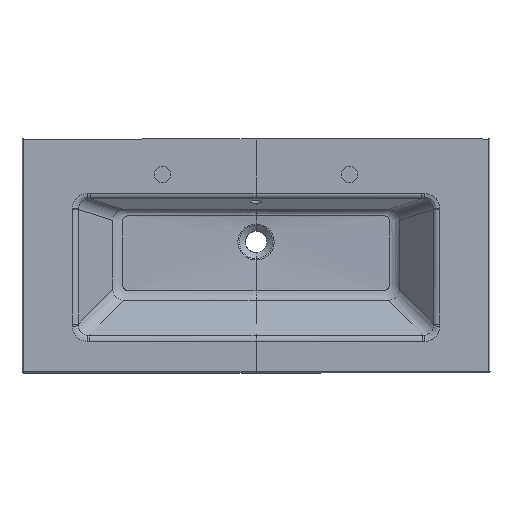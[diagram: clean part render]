
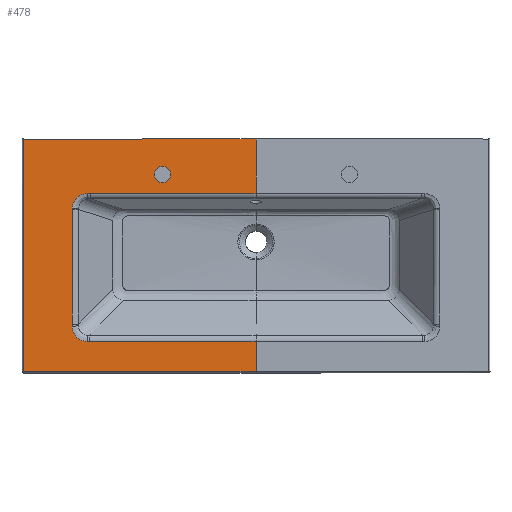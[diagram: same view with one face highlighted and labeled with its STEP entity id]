
A CAD part, top view. The second image highlights one B-rep face of the part: STEP entity #478.
In plain terms, the highlighted planar face has unit normal (0, 0, 1).
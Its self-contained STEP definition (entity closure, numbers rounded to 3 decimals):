
#45=FACE_BOUND('',#793,.T.);
#46=FACE_BOUND('',#794,.T.);
#81=PLANE('',#2559);
#115=LINE('',#6595,#177);
#116=LINE('',#6603,#178);
#117=LINE('',#6609,#179);
#118=LINE('',#6715,#180);
#119=LINE('',#6730,#181);
#120=LINE('',#6736,#182);
#121=LINE('',#6848,#183);
#122=LINE('',#6863,#184);
#131=LINE('',#7167,#193);
#132=LINE('',#7169,#194);
#133=LINE('',#7171,#195);
#134=LINE('',#7173,#196);
#135=LINE('',#7174,#197);
#136=LINE('',#7176,#198);
#177=VECTOR('',#2775,1.);
#178=VECTOR('',#2780,1.);
#179=VECTOR('',#2783,1.);
#180=VECTOR('',#2784,1.);
#181=VECTOR('',#2787,1.);
#182=VECTOR('',#2790,1.);
#183=VECTOR('',#2791,1.);
#184=VECTOR('',#2794,1.);
#193=VECTOR('',#2825,1.);
#194=VECTOR('',#2826,1.);
#195=VECTOR('',#2827,1.);
#196=VECTOR('',#2828,1.);
#197=VECTOR('',#2829,1.);
#198=VECTOR('',#2830,1.);
#349=CIRCLE('',#2549,17.5);
#478=ADVANCED_FACE('',(#45,#46),#81,.T.);
#793=EDGE_LOOP('',(#1504,#1505,#1506,#1507,#1508,#1509,#1510,#1511,#1512,
#1513,#1514,#1515,#1516,#1517,#1518,#1519,#1520,#1521));
#794=EDGE_LOOP('',(#1522));
#858=B_SPLINE_CURVE_WITH_KNOTS('',3,(#3073,#3074,#3075,#3076),
 .UNSPECIFIED.,.F.,.F.,(4,4),(0.,1.),.UNSPECIFIED.);
#973=B_SPLINE_CURVE_WITH_KNOTS('',1,(#6590,#6591),.UNSPECIFIED.,.F.,.F.,
(2,2),(0.,1.),.UNSPECIFIED.);
#974=B_SPLINE_CURVE_WITH_KNOTS('',3,(#6626,#6627,#6628,#6629,#6630,#6631,
#6632,#6633,#6634,#6635),.UNSPECIFIED.,.F.,.F.,(4,2,2,2,4),(0.,0.25,0.5,
0.75,1.),.UNSPECIFIED.);
#976=B_SPLINE_CURVE_WITH_KNOTS('',3,(#6753,#6754,#6755,#6756,#6757,#6758,
#6759,#6760,#6761,#6762),.UNSPECIFIED.,.F.,.F.,(4,2,2,2,4),(0.,0.25,0.5,
0.75,1.),.UNSPECIFIED.);
#1504=ORIENTED_EDGE('',*,*,#2290,.F.);
#1505=ORIENTED_EDGE('',*,*,#2291,.F.);
#1506=ORIENTED_EDGE('',*,*,#2292,.F.);
#1507=ORIENTED_EDGE('',*,*,#2293,.F.);
#1508=ORIENTED_EDGE('',*,*,#2046,.T.);
#1509=ORIENTED_EDGE('',*,*,#2247,.T.);
#1510=ORIENTED_EDGE('',*,*,#2249,.T.);
#1511=ORIENTED_EDGE('',*,*,#2294,.F.);
#1512=ORIENTED_EDGE('',*,*,#2295,.F.);
#1513=ORIENTED_EDGE('',*,*,#2252,.T.);
#1514=ORIENTED_EDGE('',*,*,#2254,.T.);
#1515=ORIENTED_EDGE('',*,*,#2256,.T.);
#1516=ORIENTED_EDGE('',*,*,#2258,.T.);
#1517=ORIENTED_EDGE('',*,*,#2260,.T.);
#1518=ORIENTED_EDGE('',*,*,#2262,.T.);
#1519=ORIENTED_EDGE('',*,*,#2264,.T.);
#1520=ORIENTED_EDGE('',*,*,#2266,.T.);
#1521=ORIENTED_EDGE('',*,*,#2268,.T.);
#1522=ORIENTED_EDGE('',*,*,#2269,.T.);
#1816=VERTEX_POINT('',#3072);
#1817=VERTEX_POINT('',#3077);
#1921=VERTEX_POINT('',#6167);
#1945=VERTEX_POINT('',#6594);
#1946=VERTEX_POINT('',#6598);
#1947=VERTEX_POINT('',#6602);
#1948=VERTEX_POINT('',#6608);
#1949=VERTEX_POINT('',#6625);
#1950=VERTEX_POINT('',#6714);
#1951=VERTEX_POINT('',#6729);
#1952=VERTEX_POINT('',#6735);
#1953=VERTEX_POINT('',#6752);
#1954=VERTEX_POINT('',#6847);
#1955=VERTEX_POINT('',#6862);
#1956=VERTEX_POINT('',#6866);
#1966=VERTEX_POINT('',#7168);
#1967=VERTEX_POINT('',#7170);
#1968=VERTEX_POINT('',#7172);
#1969=VERTEX_POINT('',#7175);
#2046=EDGE_CURVE('',#1817,#1816,#858,.T.);
#2247=EDGE_CURVE('',#1816,#1921,#973,.T.);
#2249=EDGE_CURVE('',#1921,#1945,#115,.T.);
#2252=EDGE_CURVE('',#1946,#1947,#116,.T.);
#2254=EDGE_CURVE('',#1947,#1948,#117,.T.);
#2256=EDGE_CURVE('',#1948,#1949,#974,.T.);
#2258=EDGE_CURVE('',#1949,#1950,#118,.T.);
#2260=EDGE_CURVE('',#1950,#1951,#119,.T.);
#2262=EDGE_CURVE('',#1951,#1952,#120,.T.);
#2264=EDGE_CURVE('',#1952,#1953,#976,.T.);
#2266=EDGE_CURVE('',#1953,#1954,#121,.T.);
#2268=EDGE_CURVE('',#1954,#1955,#122,.T.);
#2269=EDGE_CURVE('',#1956,#1956,#349,.T.);
#2290=EDGE_CURVE('',#1966,#1955,#131,.T.);
#2291=EDGE_CURVE('',#1967,#1966,#132,.T.);
#2292=EDGE_CURVE('',#1968,#1967,#133,.T.);
#2293=EDGE_CURVE('',#1817,#1968,#134,.T.);
#2294=EDGE_CURVE('',#1969,#1945,#135,.T.);
#2295=EDGE_CURVE('',#1946,#1969,#136,.T.);
#2549=AXIS2_PLACEMENT_3D('',#6865,#2797,#2798);
#2559=AXIS2_PLACEMENT_3D('',#7177,#2831,#2832);
#2775=DIRECTION('',(1.,0.,0.));
#2780=DIRECTION('',(-1.,0.,0.));
#2783=DIRECTION('',(-1.,0.,0.));
#2784=DIRECTION('',(0.,1.,0.));
#2787=DIRECTION('',(0.,1.,0.));
#2790=DIRECTION('',(0.,1.,0.));
#2791=DIRECTION('',(1.,0.,0.));
#2794=DIRECTION('',(1.,0.,0.));
#2797=DIRECTION('',(0.,0.,-1.));
#2798=DIRECTION('',(-1.,0.,0.));
#2825=DIRECTION('',(0.,-1.,0.));
#2826=DIRECTION('',(0.,-1.,0.));
#2827=DIRECTION('',(0.,-1.,0.));
#2828=DIRECTION('',(0.,-1.,0.));
#2829=DIRECTION('',(0.,-1.,0.));
#2830=DIRECTION('',(0.,-1.,0.));
#2831=DIRECTION('',(0.,0.,1.));
#2832=DIRECTION('',(0.,-1.,0.));
#3072=CARTESIAN_POINT('',(-496.422,-0.026,0.));
#3073=CARTESIAN_POINT('',(0.,0.,0.));
#3074=CARTESIAN_POINT('',(-165.474,0.,0.));
#3075=CARTESIAN_POINT('',(-330.948,0.,0.));
#3076=CARTESIAN_POINT('',(-496.422,0.,0.));
#3077=CARTESIAN_POINT('',(0.,0.,0.));
#6167=CARTESIAN_POINT('',(-496.422,-496.422,0.));
#6590=CARTESIAN_POINT('',(-496.422,-0.053,0.));
#6591=CARTESIAN_POINT('',(-496.422,-496.422,0.));
#6594=CARTESIAN_POINT('',(0.,-496.422,0.));
#6595=CARTESIAN_POINT('',(-248.211,-496.422,0.));
#6598=CARTESIAN_POINT('',(0.,-433.,0.));
#6602=CARTESIAN_POINT('',(-355.909,-433.,0.));
#6603=CARTESIAN_POINT('',(-177.955,-433.,0.));
#6608=CARTESIAN_POINT('',(-361.,-433.,0.));
#6609=CARTESIAN_POINT('',(-358.455,-433.,0.));
#6625=CARTESIAN_POINT('',(-393.,-401.,0.));
#6626=CARTESIAN_POINT('',(-361.,-433.,0.));
#6627=CARTESIAN_POINT('',(-365.244,-433.,0.));
#6628=CARTESIAN_POINT('',(-369.325,-432.188,0.));
#6629=CARTESIAN_POINT('',(-377.166,-428.94,0.));
#6630=CARTESIAN_POINT('',(-380.627,-426.628,0.));
#6631=CARTESIAN_POINT('',(-386.628,-420.627,0.));
#6632=CARTESIAN_POINT('',(-388.94,-417.166,0.));
#6633=CARTESIAN_POINT('',(-392.188,-409.326,0.));
#6634=CARTESIAN_POINT('',(-393.,-405.244,0.));
#6635=CARTESIAN_POINT('',(-393.,-401.,0.));
#6714=CARTESIAN_POINT('',(-393.,-395.745,0.));
#6715=CARTESIAN_POINT('',(-393.,-398.372,0.));
#6729=CARTESIAN_POINT('',(-393.,-150.635,0.));
#6730=CARTESIAN_POINT('',(-393.,-273.19,0.));
#6735=CARTESIAN_POINT('',(-393.,-149.,0.));
#6736=CARTESIAN_POINT('',(-393.,-149.818,0.));
#6752=CARTESIAN_POINT('',(-361.,-117.,0.));
#6753=CARTESIAN_POINT('',(-393.,-149.,0.));
#6754=CARTESIAN_POINT('',(-393.,-144.756,0.));
#6755=CARTESIAN_POINT('',(-392.188,-140.675,0.));
#6756=CARTESIAN_POINT('',(-388.94,-132.834,0.));
#6757=CARTESIAN_POINT('',(-386.628,-129.373,0.));
#6758=CARTESIAN_POINT('',(-380.627,-123.372,0.));
#6759=CARTESIAN_POINT('',(-377.166,-121.06,0.));
#6760=CARTESIAN_POINT('',(-369.326,-117.812,0.));
#6761=CARTESIAN_POINT('',(-365.244,-117.,0.));
#6762=CARTESIAN_POINT('',(-361.,-117.,0.));
#6847=CARTESIAN_POINT('',(-354.522,-117.,0.));
#6848=CARTESIAN_POINT('',(-357.761,-117.,0.));
#6862=CARTESIAN_POINT('',(0.,-117.,0.));
#6863=CARTESIAN_POINT('',(-177.261,-117.,0.));
#6865=CARTESIAN_POINT('',(-200.,-76.,0.));
#6866=CARTESIAN_POINT('',(-217.5,-76.,0.));
#7167=CARTESIAN_POINT('',(0.,-100.25,0.));
#7168=CARTESIAN_POINT('',(0.,-83.5,0.));
#7169=CARTESIAN_POINT('',(0.,-66.,0.));
#7170=CARTESIAN_POINT('',(0.,-48.5,0.));
#7171=CARTESIAN_POINT('',(0.,-25.75,0.));
#7172=CARTESIAN_POINT('',(0.,-3.,0.));
#7173=CARTESIAN_POINT('',(0.,-233.203,0.));
#7174=CARTESIAN_POINT('',(0.,-496.01,0.));
#7175=CARTESIAN_POINT('',(0.,-495.599,0.));
#7176=CARTESIAN_POINT('',(0.,-464.299,0.));
#7177=CARTESIAN_POINT('',(-496.422,30.016,0.));
